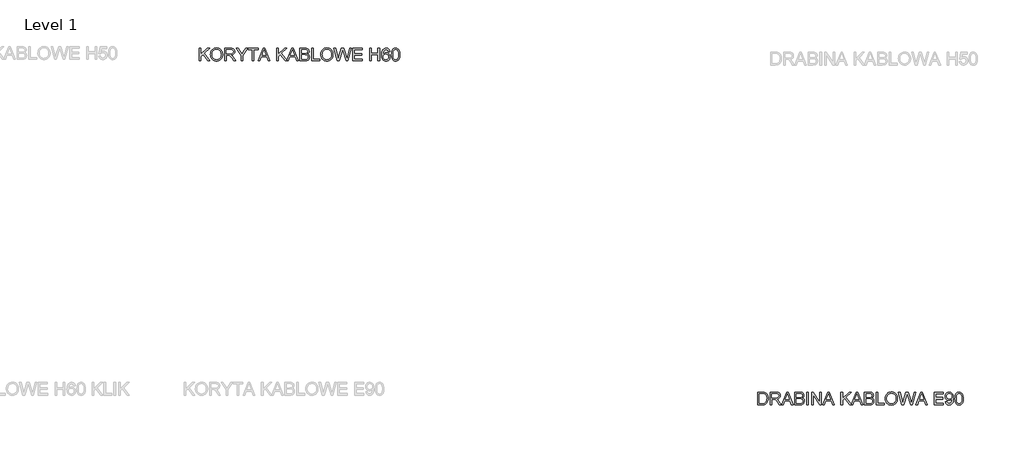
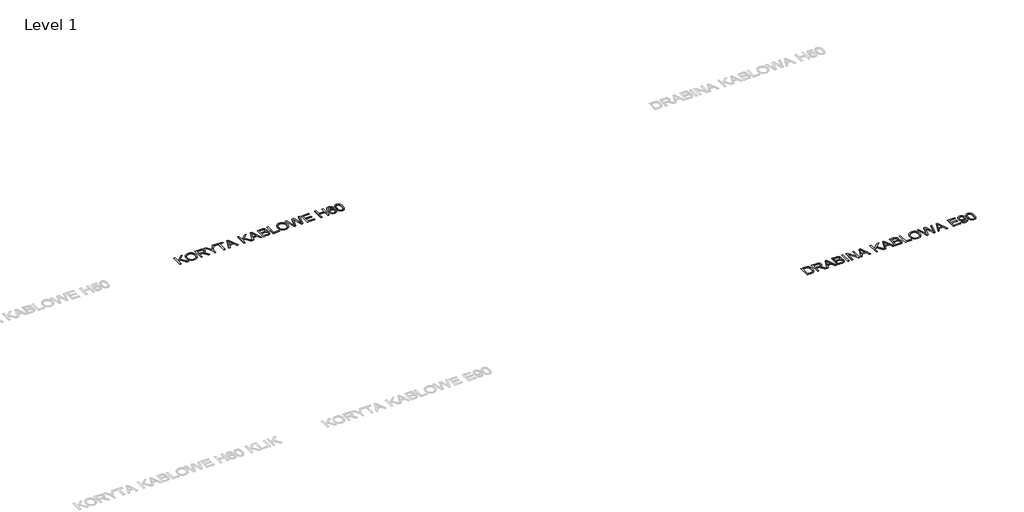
# One storey, part 8 of 9: 2 proxies.
"""IFC4 building model written with IfcOpenShell, lengths in millimetres."""

from ifc_helpers import new_model, si_unit, origin, origin_with_axes, place, context, project, spatial, polyline, outline, extrude, element, save

model = new_model("IFC4")

# Units and contexts
model_context = context("Model", 3, world=origin())
ifc_project = project(units=[si_unit("LENGTHUNIT", "METRE", prefix="MILLI")], contexts=[model_context])

# Site, building, storey
site = spatial("IfcSite", under=ifc_project)
building = spatial("IfcBuilding", under=site)
storey = spatial("IfcBuildingStorey", under=building, Name="Level 1", Elevation=0.0)

# Proxies
placement = place(None, origin())
element("IfcBuildingElementProxy", 1, Name="600mm Arial", ObjectType="600mm Arial", at=placement, inside=storey, context=model_context, shape_type="SweptSolid", body=[
    extrude(outline(polyline([(-9350.559541, 21762.9826538), (-9350.559541, 22353.7518845), (-9276.7133871, 22353.7518845), (-9276.7133871, 22064.5691922), (-8973.8287717, 22353.7518845), (-8870.559541, 22353.7518845), (-9124.8383871, 22110.8672691), (-8861.3287717, 21762.9826538), (-8951.6172333, 21762.9826538), (-9177.1941563, 22060.963423), (-9276.7133871, 21966.0595768), (-9276.7133871, 21762.9826538), (-9350.559541, 21762.9826538)])), origin_with_axes(), (0.0, 0.0, 1.0), 10.0),
    extrude(outline(polyline([(-8833.636464, 22050.5788076), (-8828.714589, 22119.8726778), (-8813.948964, 22181.2158268), (-8789.339589, 22234.6082547), (-8754.886464, 22280.0499614), (-8712.6538919, 22316.3330143), (-8664.7061756, 22342.2494807), (-8611.043315, 22357.7993605), (-8551.6653102, 22362.9826538), (-8511.9207188, 22360.5487595), (-8474.1773294, 22353.2470768), (-8438.4351419, 22341.0776057), (-8404.6941563, 22324.0403461), (-8373.9008871, 22302.6491201), (-8347.0018486, 22277.4177499), (-8323.997041, 22248.3462355), (-8304.886464, 22215.4345768), (-8289.8684352, 22179.4309711), (-8279.1412717, 22141.0836153), (-8272.7049736, 22100.3925095), (-8270.559541, 22057.3576538), (-8272.8176539, 22013.7548893), (-8279.5919929, 21972.5139038), (-8290.8825578, 21933.634697), (-8306.6893486, 21897.1172691), (-8326.6382669, 21863.9261634), (-8350.355214, 21835.025923), (-8377.84019, 21810.416548), (-8409.0931948, 21790.0980384), (-8442.8837597, 21774.1965961), (-8477.981416, 21762.838423), (-8514.3861635, 21756.0235191), (-8552.0980025, 21753.7518845), (-8592.5367044, 21756.2624013), (-8630.7758871, 21763.7939518), (-8666.8155506, 21776.346536), (-8700.6556948, 21793.9201538), (-8731.4129063, 21815.8342163), (-8758.2037717, 21841.4081345), (-8781.028291, 21870.6419086), (-8799.886464, 21903.5355384), (-8814.652089, 21938.768411), (-8825.198964, 21975.0199134), (-8831.527089, 22012.2900456), (-8833.636464, 22050.5788076)]), holes=[polyline([(-8759.7903102, 22049.8576538), (-8756.0989039, 22000.900322), (-8745.0246852, 21957.4417884), (-8726.5676539, 21919.4820528), (-8700.7278102, 21887.0211153), (-8669.317053, 21861.0235191), (-8634.1472813, 21842.4538076), (-8595.2184953, 21831.3119807), (-8552.5306948, 21827.5980384), (-8509.112726, 21831.3480384), (-8469.7242044, 21842.5980384), (-8434.3651299, 21861.3480384), (-8403.0355025, 21887.5980384), (-8377.3849616, 21920.744072), (-8359.0631467, 21960.182173), (-8348.0700578, 22005.9123413), (-8344.4056948, 22057.9345768), (-8345.9742044, 22091.7296489), (-8350.6797333, 22123.307173), (-8358.5222813, 22152.6671489), (-8369.5018486, 22179.8095768), (-8383.4967405, 22204.3783869), (-8400.3852621, 22226.0175095), (-8420.1674135, 22244.7269446), (-8442.8431948, 22260.5066922), (-8467.7094809, 22273.0322331), (-8494.0631467, 22281.979048), (-8521.9041924, 22287.3471369), (-8551.2326179, 22289.1364999), (-8592.4375458, 22285.6884831), (-8630.667714, 22275.3444326), (-8665.9231227, 22258.1043485), (-8698.2037717, 22233.9682307), (-8725.1478823, 22201.7732187), (-8744.3936756, 22160.3564518), (-8755.9411515, 22109.7179302), (-8759.7903102, 22049.8576538)])]), origin_with_axes(), (0.0, 0.0, 1.0), 10.0),
    extrude(outline(polyline([(-8169.0210794, 21762.9826538), (-8169.0210794, 22353.7518845), (-7914.4537717, 22353.7518845), (-7846.0343006, 22349.7675095), (-7796.2566563, 22337.8143845), (-7777.0469208, 22328.3131826), (-7759.8744448, 22315.7470768), (-7744.7392285, 22300.1160672), (-7731.6412717, 22281.4201538), (-7721.0718607, 22260.6644446), (-7713.5222813, 22238.854048), (-7707.4826179, 22192.0691922), (-7709.9841203, 22161.7266441), (-7717.4886275, 22133.8720768), (-7729.9961395, 22108.5054903), (-7747.5066563, 22085.6268845), (-7770.2455385, 22065.9664278), (-7798.4381467, 22050.2542884), (-7832.0844809, 22038.4904663), (-7871.184541, 22030.6749614), (-7846.8455986, 22014.7735191), (-7829.2133871, 21999.088423), (-7769.3576179, 21923.0788076), (-7670.8480025, 21762.9826538), (-7756.6653102, 21762.9826538), (-7833.5403102, 21885.4345768), (-7889.0691563, 21966.4922691), (-7909.7121852, 21990.1280864), (-7928.0835794, 22004.7855384), (-7963.2037717, 22018.8480384), (-8006.0403102, 22021.4441922), (-8095.1749256, 22021.4441922), (-8095.1749256, 21762.9826538), (-8169.0210794, 21762.9826538)]), holes=[polyline([(-8095.1749256, 22095.2903461), (-7929.886464, 22095.2903461), (-7882.4165121, 22097.9045288), (-7845.5835794, 22105.7470768), (-7817.855214, 22119.3408268), (-7797.698964, 22139.2086153), (-7785.4213198, 22163.2410672), (-7781.3287717, 22189.3288076), (-7783.2803943, 22208.2140239), (-7789.1352621, 22225.3504422), (-7798.8933751, 22240.7380624), (-7812.5547333, 22254.3768845), (-7830.4348414, 22265.5457547), (-7852.8492044, 22273.5235191), (-7879.7978222, 22278.3101778), (-7911.2806948, 22279.9057307), (-8095.1749256, 22279.9057307), (-8095.1749256, 22095.2903461)])]), origin_with_axes(), (0.0, 0.0, 1.0), 10.0),
    extrude(outline(polyline([(-7412.0980025, 21762.9826538), (-7412.0980025, 22013.2230384), (-7642.8672333, 22353.7518845), (-7555.7518486, 22353.7518845), (-7432.5787717, 22171.8768845), (-7369.5499256, 22079.1364999), (-7306.3768486, 22178.5114999), (-7194.5980025, 22353.7518845), (-7107.4826179, 22353.7518845), (-7338.2518486, 22013.2230384), (-7338.2518486, 21762.9826538), (-7412.0980025, 21762.9826538)])), origin_with_axes(), (0.0, 0.0, 1.0), 10.0),
    extrude(outline(polyline([(-6895.1749256, 21762.9826538), (-6895.1749256, 22279.9057307), (-7089.0210794, 22279.9057307), (-7089.0210794, 22353.7518845), (-6627.4826179, 22353.7518845), (-6627.4826179, 22279.9057307), (-6821.3287717, 22279.9057307), (-6821.3287717, 21762.9826538), (-6895.1749256, 21762.9826538)])), origin_with_axes(), (0.0, 0.0, 1.0), 10.0),
    extrude(outline(polyline([(-6613.2037717, 21762.9826538), (-6377.386464, 22353.7518845), (-6314.5018486, 22353.7518845), (-6078.684541, 21762.9826538), (-6156.7133871, 21762.9826538), (-6224.3576179, 21947.5980384), (-6467.6749256, 21947.5980384), (-6535.1749256, 21762.9826538), (-6613.2037717, 21762.9826538)]), holes=[polyline([(-6440.559541, 22021.4441922), (-6251.3287717, 22021.4441922), (-6304.5499256, 22166.6845768), (-6345.9441563, 22279.9057307), (-6382.7230025, 22179.3768845), (-6440.559541, 22021.4441922)])]), origin_with_axes(), (0.0, 0.0, 1.0), 10.0),
    extrude(outline(polyline([(-5769.0210794, 21762.9826538), (-5769.0210794, 22353.7518845), (-5695.1749256, 22353.7518845), (-5695.1749256, 22064.5691922), (-5392.2903102, 22353.7518845), (-5289.0210794, 22353.7518845), (-5543.2999256, 22110.8672691), (-5279.7903102, 21762.9826538), (-5370.0787717, 21762.9826538), (-5595.6556948, 22060.963423), (-5695.1749256, 21966.0595768), (-5695.1749256, 21762.9826538), (-5769.0210794, 21762.9826538)])), origin_with_axes(), (0.0, 0.0, 1.0), 10.0),
    extrude(outline(polyline([(-5293.2037717, 21762.9826538), (-5057.386464, 22353.7518845), (-4994.5018486, 22353.7518845), (-4758.684541, 21762.9826538), (-4836.7133871, 21762.9826538), (-4904.3576179, 21947.5980384), (-5147.6749256, 21947.5980384), (-5215.1749256, 21762.9826538), (-5293.2037717, 21762.9826538)]), holes=[polyline([(-5120.559541, 22021.4441922), (-4931.3287717, 22021.4441922), (-4984.5499256, 22166.6845768), (-5025.9441563, 22279.9057307), (-5062.7230025, 22179.3768845), (-5120.559541, 22021.4441922)])]), origin_with_axes(), (0.0, 0.0, 1.0), 10.0),
    extrude(outline(polyline([(-4679.7903102, 21762.9826538), (-4679.7903102, 22353.7518845), (-4454.3576179, 22353.7518845), (-4392.356416, 22349.4069326), (-4343.948964, 22336.3720768), (-4306.8455986, 22314.322798), (-4291.6743246, 22299.7960552), (-4278.7566563, 22282.9345768), (-4261.0703583, 22246.0114999), (-4255.1749256, 22207.3576538), (-4260.1328583, 22171.7867403), (-4275.0066563, 22138.3432307), (-4299.9044929, 22109.0824134), (-4334.934541, 22086.0595768), (-4312.6463799, 22076.5583749), (-4293.089589, 22064.2086153), (-4276.2641684, 22049.010298), (-4262.1701179, 22030.963423), (-4251.0327982, 22010.6178701), (-4243.0775698, 21988.5235191), (-4238.3044328, 21964.6803701), (-4236.7133871, 21939.088423), (-4241.058339, 21897.8925095), (-4254.0931948, 21859.6893845), (-4273.5463198, 21827.2014038), (-4297.1460794, 21803.150923), (-4326.0463198, 21785.7350576), (-4361.4008871, 21773.150923), (-4404.3636275, 21765.5247211), (-4456.0883871, 21762.9826538), (-4679.7903102, 21762.9826538)]), holes=[polyline([(-4605.9441563, 22113.7518845), (-4471.0883871, 22113.7518845), (-4423.9249256, 22115.338423), (-4392.3383871, 22120.0980384), (-4364.7722813, 22131.041548), (-4344.9585794, 22147.4297691), (-4333.0054544, 22169.010298), (-4329.0210794, 22195.5307307), (-4332.7350217, 22221.275923), (-4343.8768486, 22243.7038076), (-4361.9417525, 22261.2098172), (-4386.4249256, 22272.1893845), (-4423.997041, 22277.9766441), (-4481.3287717, 22279.9057307), (-4605.9441563, 22279.9057307), (-4605.9441563, 22113.7518845)]), polyline([(-4605.9441563, 21836.8288076), (-4454.5018486, 21836.8288076), (-4399.6941563, 21839.713423), (-4374.2554544, 21846.1136634), (-4353.323964, 21855.7951538), (-4336.3047333, 21869.6593364), (-4322.6028102, 21888.6076538), (-4313.5703583, 21911.7927499), (-4310.559541, 21938.3672691), (-4314.0931948, 21969.2326538), (-4324.6941563, 21995.7711153), (-4343.2097813, 22016.5223172), (-4370.4874256, 22030.025923), (-4409.1232429, 22037.4357788), (-4461.7133871, 22039.9057307), (-4605.9441563, 22039.9057307), (-4605.9441563, 21836.8288076)])]), origin_with_axes(), (0.0, 0.0, 1.0), 10.0),
    extrude(outline(polyline([(-4135.1749256, 21762.9826538), (-4135.1749256, 22353.7518845), (-4061.3287717, 22353.7518845), (-4061.3287717, 21836.8288076), (-3765.9441563, 21836.8288076), (-3765.9441563, 21762.9826538), (-4135.1749256, 21762.9826538)])), origin_with_axes(), (0.0, 0.0, 1.0), 10.0),
    extrude(outline(polyline([(-3710.559541, 22050.5788076), (-3705.637666, 22119.8726778), (-3690.872041, 22181.2158268), (-3666.262666, 22234.6082547), (-3631.809541, 22280.0499614), (-3589.5769688, 22316.3330143), (-3541.6292525, 22342.2494807), (-3487.9663919, 22357.7993605), (-3428.5883871, 22362.9826538), (-3388.8437958, 22360.5487595), (-3351.1004063, 22353.2470768), (-3315.3582188, 22341.0776057), (-3281.6172333, 22324.0403461), (-3250.823964, 22302.6491201), (-3223.9249256, 22277.4177499), (-3200.9201179, 22248.3462355), (-3181.809541, 22215.4345768), (-3166.7915121, 22179.4309711), (-3156.0643486, 22141.0836153), (-3149.6280506, 22100.3925095), (-3147.4826179, 22057.3576538), (-3149.7407309, 22013.7548893), (-3156.5150698, 21972.5139038), (-3167.8056347, 21933.634697), (-3183.6124256, 21897.1172691), (-3203.5613438, 21863.9261634), (-3227.278291, 21835.025923), (-3254.7632669, 21810.416548), (-3286.0162717, 21790.0980384), (-3319.8068366, 21774.1965961), (-3354.9044929, 21762.838423), (-3391.3092405, 21756.0235191), (-3429.0210794, 21753.7518845), (-3469.4597813, 21756.2624013), (-3507.698964, 21763.7939518), (-3543.7386275, 21776.346536), (-3577.5787717, 21793.9201538), (-3608.3359833, 21815.8342163), (-3635.1268486, 21841.4081345), (-3657.9513679, 21870.6419086), (-3676.809541, 21903.5355384), (-3691.575166, 21938.768411), (-3702.122041, 21975.0199134), (-3708.450166, 22012.2900456), (-3710.559541, 22050.5788076)]), holes=[polyline([(-3636.7133871, 22049.8576538), (-3633.0219809, 22000.900322), (-3621.9477621, 21957.4417884), (-3603.4907309, 21919.4820528), (-3577.6508871, 21887.0211153), (-3546.2401299, 21861.0235191), (-3511.0703583, 21842.4538076), (-3472.1415722, 21831.3119807), (-3429.4537717, 21827.5980384), (-3386.035803, 21831.3480384), (-3346.6472813, 21842.5980384), (-3311.2882068, 21861.3480384), (-3279.9585794, 21887.5980384), (-3254.3080385, 21920.744072), (-3235.9862236, 21960.182173), (-3224.9931347, 22005.9123413), (-3221.3287717, 22057.9345768), (-3222.8972813, 22091.7296489), (-3227.6028102, 22123.307173), (-3235.4453583, 22152.6671489), (-3246.4249256, 22179.8095768), (-3260.4198174, 22204.3783869), (-3277.308339, 22226.0175095), (-3297.0904905, 22244.7269446), (-3319.7662717, 22260.5066922), (-3344.6325578, 22273.0322331), (-3370.9862236, 22281.979048), (-3398.8272693, 22287.3471369), (-3428.1556948, 22289.1364999), (-3469.3606227, 22285.6884831), (-3507.590791, 22275.3444326), (-3542.8461996, 22258.1043485), (-3575.1268486, 22233.9682307), (-3602.0709592, 22201.7732187), (-3621.3167525, 22160.3564518), (-3632.8642285, 22109.7179302), (-3636.7133871, 22049.8576538)])]), origin_with_axes(), (0.0, 0.0, 1.0), 10.0),
    extrude(outline(polyline([(-2940.2230025, 21762.9826538), (-3101.3287717, 22353.7518845), (-3025.1749256, 22353.7518845), (-2931.7133871, 21965.4826538), (-2902.8672333, 21845.6268845), (-2872.0018486, 21951.6364999), (-2754.886464, 22353.7518845), (-2645.1268486, 22353.7518845), (-2560.0306948, 22062.2614999), (-2523.5763679, 21954.088423), (-2496.7133871, 21845.6268845), (-2468.7326179, 21962.0211153), (-2374.4056948, 22353.7518845), (-2298.2518486, 22353.7518845), (-2459.5018486, 21762.9826538), (-2538.3960794, 21762.9826538), (-2680.0306948, 22218.7518845), (-2699.7903102, 22282.3576538), (-2722.0018486, 22205.7711153), (-2851.0883871, 21762.9826538), (-2940.2230025, 21762.9826538)])), origin_with_axes(), (0.0, 0.0, 1.0), 10.0),
    extrude(outline(polyline([(-2224.4056948, 21762.9826538), (-2224.4056948, 22353.7518845), (-1799.7903102, 22353.7518845), (-1799.7903102, 22279.9057307), (-2150.559541, 22279.9057307), (-2150.559541, 22104.5211153), (-1818.2518486, 22104.5211153), (-1818.2518486, 22030.6749614), (-2150.559541, 22030.6749614), (-2150.559541, 21836.8288076), (-1790.559541, 21836.8288076), (-1790.559541, 21762.9826538), (-2224.4056948, 21762.9826538)])), origin_with_axes(), (0.0, 0.0, 1.0), 10.0),
    extrude(outline(polyline([(-1449.0210794, 21762.9826538), (-1449.0210794, 22353.7518845), (-1375.1749256, 22353.7518845), (-1375.1749256, 22113.7518845), (-1061.3287717, 22113.7518845), (-1061.3287717, 22353.7518845), (-987.4826179, 22353.7518845), (-987.4826179, 21762.9826538), (-1061.3287717, 21762.9826538), (-1061.3287717, 22039.9057307), (-1375.1749256, 22039.9057307), (-1375.1749256, 21762.9826538), (-1449.0210794, 21762.9826538)])), origin_with_axes(), (0.0, 0.0, 1.0), 10.0),
    extrude(outline(polyline([(-507.4826179, 22196.8288076), (-581.3287717, 22187.5980384), (-593.2278102, 22224.1965961), (-609.309541, 22249.1845768), (-625.18394, 22262.6250816), (-642.8071371, 22272.2254422), (-662.1791323, 22277.9856586), (-683.2999256, 22279.9057307), (-717.6268486, 22275.4345768), (-749.934541, 22262.0211153), (-777.6809352, 22233.7699134), (-800.3431948, 22194.8816922), (-809.1998655, 22170.0785071), (-815.6496852, 22139.8756826), (-821.3287717, 22063.2711153), (-791.7073775, 22097.8324134), (-756.2085794, 22122.1893845), (-716.8155506, 22136.6304903), (-675.511464, 22141.4441922), (-640.0306948, 22138.1539278), (-607.2903102, 22128.2831345), (-577.2903102, 22111.8318124), (-550.0306948, 22088.7999614), (-527.3774496, 22060.5577739), (-511.1965602, 22028.4754422), (-501.4880265, 21992.5529663), (-498.2518486, 21952.7903461), (-504.3455986, 21899.9117403), (-511.9627861, 21874.9192523), (-522.6268486, 21850.8913076), (-535.9591804, 21828.7248413), (-551.5811756, 21809.3167884), (-569.4928342, 21792.6671489), (-589.6941563, 21778.775923), (-611.7524496, 21767.8279062), (-635.2350217, 21760.0078941), (-660.1418727, 21755.3158869), (-686.4730025, 21753.7518845), (-730.4949376, 21757.8985191), (-770.2530506, 21770.338423), (-805.7473414, 21791.0715961), (-836.9778102, 21820.0980384), (-862.4390482, 21858.6437114), (-880.6256467, 21907.9345768), (-891.5376059, 21967.9706345), (-895.1749256, 22038.7518845), (-891.136464, 22118.1058509), (-879.0210794, 22185.8312114), (-858.8287717, 22241.9279663), (-845.7037717, 22265.6156165), (-830.559541, 22286.3961153), (-799.9195169, 22315.8642643), (-764.3936756, 22336.9129422), (-723.9820169, 22349.5421489), (-678.684541, 22353.7518845), (-644.6731227, 22351.1467163), (-613.8888679, 22343.3312114), (-586.3317765, 22330.3053701), (-562.0018486, 22312.0691922), (-541.5571371, 22289.2356586), (-525.6556948, 22262.4177499), (-514.2975217, 22231.6154663), (-507.4826179, 22196.8288076)]), holes=[polyline([(-821.3287717, 21953.9441922), (-817.0559352, 21921.2218364), (-804.2374256, 21889.9778461), (-784.3335794, 21863.1148653), (-758.8047333, 21843.5355384), (-727.9934352, 21831.5824134), (-692.2422333, 21827.5980384), (-666.5736635, 21829.6623413), (-643.5102621, 21835.8552499), (-623.0520289, 21846.1767643), (-605.198964, 21860.6268845), (-590.7172934, 21878.619673), (-580.3732429, 21899.5691922), (-574.1668126, 21923.4754422), (-572.0980025, 21950.338423), (-574.1397693, 21976.1512235), (-580.2650698, 21999.0703941), (-590.4739039, 22019.095935), (-604.7662717, 22036.2278461), (-622.6734232, 22049.9523052), (-643.7266083, 22059.7554903), (-667.925827, 22065.6374013), (-695.2710794, 22067.5980384), (-720.597101, 22065.6374013), (-743.9309352, 22059.7554903), (-765.2725818, 22049.9523052), (-784.622041, 22036.2278461), (-800.6812357, 22019.3212956), (-812.152089, 21999.9718364), (-819.034601, 21978.1794687), (-821.3287717, 21953.9441922)])]), origin_with_axes(), (0.0, 0.0, 1.0), 10.0),
    extrude(outline(polyline([(-433.636464, 22053.6076538), (-428.2097813, 22148.1689518), (-421.426428, 22188.2696129), (-411.9297333, 22223.5836153), (-399.7602621, 22254.3994206), (-384.9585794, 22281.0054903), (-367.5246852, 22303.4018244), (-347.4585794, 22321.588423), (-324.6926539, 22335.6599374), (-299.1593006, 22345.7110191), (-270.8585193, 22351.7416682), (-239.7903102, 22353.7518845), (-194.2855025, 22348.9922691), (-153.5403102, 22334.713423), (-119.465791, 22311.4742403), (-93.9730025, 22279.8336153), (-74.7181948, 22240.0619807), (-59.3576179, 22192.4297691), (-49.2975217, 22131.9429903), (-45.9441563, 22053.6076538), (-51.3167525, 21959.5872211), (-58.0324977, 21919.6217763), (-67.434541, 21884.3528461), (-79.5093607, 21853.5235191), (-94.2434352, 21826.8768845), (-111.6367645, 21804.4129422), (-131.6893486, 21786.1316922), (-154.4823174, 21771.9655263), (-180.0968006, 21761.8468364), (-208.5327982, 21755.7756225), (-239.7903102, 21753.7518845), (-280.4633871, 21757.2675095), (-316.5210794, 21767.8143845), (-347.9633871, 21785.3925095), (-374.7903102, 21810.0018845), (-400.5355025, 21854.4880624), (-418.9249256, 21909.9177499), (-429.9585794, 21976.290947), (-433.636464, 22053.6076538)]), holes=[polyline([(-359.7903102, 22053.7518845), (-357.6268486, 21989.5556706), (-351.136464, 21937.5920288), (-340.3191563, 21897.860959), (-325.1749256, 21870.3624614), (-306.8576179, 21851.6530263), (-286.5210794, 21838.2891441), (-264.1653102, 21830.2708148), (-239.7903102, 21827.5980384), (-215.4153102, 21830.2798292), (-193.059541, 21838.3252018), (-172.7230025, 21851.7341562), (-154.4056948, 21870.5066922), (-139.261464, 21898.0502619), (-128.4441563, 21937.7723172), (-121.9537717, 21989.6728581), (-119.7903102, 22053.7518845), (-121.8816563, 22116.2488797), (-128.1556948, 22167.2975576), (-138.6124256, 22206.8979182), (-153.2518486, 22235.0499614), (-171.262666, 22254.6743605), (-191.8335794, 22268.6917884), (-214.964589, 22277.1022451), (-240.6556948, 22279.9057307), (-264.9044929, 22277.4357788), (-286.8816563, 22270.025923), (-306.5871852, 22257.6761634), (-324.0210794, 22240.3864999), (-339.6701179, 22209.7374614), (-350.8480025, 22168.4153461), (-357.5547333, 22116.4201538), (-359.7903102, 22053.7518845)])]), origin_with_axes(), (0.0, 0.0, 1.0), 10.0),
])
element("IfcBuildingElementProxy", 2, Name="600mm Arial", ObjectType="600mm Arial", at=placement, inside=storey, context=model_context, shape_type="SweptSolid", body=[
    extrude(outline(polyline([(16562.0605697, 5777.8494395), (16562.0605697, 6368.6186702), (16765.8586467, 6368.6186702), (16826.760089, 6366.4912664), (16871.291339, 6360.1090549), (16918.3826851, 6343.7028049), (16958.118262, 6317.8494395), (16980.0142957, 6296.7196318), (16998.9716274, 6272.8494395), (17014.9902572, 6246.2388625), (17028.0701851, 6216.887901), (17038.2294399, 6185.0669875), (17045.4860505, 6151.0465549), (17051.291339, 6076.4071318), (17047.3610505, 6012.9996799), (17035.5701851, 5957.200401), (17017.6134543, 5909.6943914), (16995.1855697, 5871.1667472), (16969.368262, 5840.7520837), (16941.243262, 5817.5850164), (16908.9535986, 5800.403526), (16870.6423005, 5787.9455933), (16826.2372524, 5780.3734779), (16775.666339, 5777.8494395), (16562.0605697, 5777.8494395)]), holes=[polyline([(16635.9067236, 5851.6955933), (16766.5798005, 5851.6955933), (16820.6302813, 5854.3638625), (16861.6278774, 5862.3686702), (16892.5653774, 5875.2412664), (16916.4355697, 5892.512901), (16942.0906178, 5924.4780452), (16961.3634543, 5965.8542472), (16973.4247524, 6016.8217952), (16977.4451851, 6077.5609779), (16975.4755337, 6120.4335741), (16969.5665793, 6158.0417472), (16959.7183221, 6190.3854972), (16945.930762, 6217.4648241), (16929.3216875, 6239.8927087), (16911.008887, 6258.2821318), (16890.9923606, 6272.6330933), (16869.2721082, 6282.9455933), (16826.7961467, 6291.8157856), (16764.5605697, 6294.7725164), (16635.9067236, 6294.7725164), (16635.9067236, 5851.6955933)])]), origin_with_axes(), (0.0, 0.0, 1.0), 10.0),
    extrude(outline(polyline([(17152.8298005, 5777.8494395), (17152.8298005, 6368.6186702), (17407.3971082, 6368.6186702), (17475.8165793, 6364.6342952), (17525.5942236, 6352.6811702), (17544.8039592, 6343.1799683), (17561.9764351, 6330.6138625), (17577.1116515, 6314.9828529), (17590.2096082, 6296.2869395), (17600.7790192, 6275.5312303), (17608.3285986, 6253.7208337), (17614.368262, 6206.9359779), (17611.8667596, 6176.5934299), (17604.3622524, 6148.7388625), (17591.8547404, 6123.372276), (17574.3442236, 6100.4936702), (17551.6053414, 6080.8332135), (17523.4127332, 6065.1210741), (17489.7663991, 6053.357252), (17450.666339, 6045.5417472), (17475.0052813, 6029.6403049), (17492.6374928, 6013.9552087), (17552.493262, 5937.9455933), (17651.0028774, 5777.8494395), (17565.1855697, 5777.8494395), (17488.3105697, 5900.3013625), (17432.7817236, 5981.3590549), (17412.1386947, 6004.9948722), (17393.7673005, 6019.6523241), (17358.6471082, 6033.7148241), (17315.8105697, 6036.3109779), (17226.6759543, 6036.3109779), (17226.6759543, 5777.8494395), (17152.8298005, 5777.8494395)]), holes=[polyline([(17226.6759543, 6110.1571318), (17391.9644159, 6110.1571318), (17439.4343678, 6112.7713145), (17476.2673005, 6120.6138625), (17503.9956659, 6134.2076125), (17524.1519159, 6154.075401), (17536.4295601, 6178.1078529), (17540.5221082, 6204.1955933), (17538.5704856, 6223.0808097), (17532.7156178, 6240.2172279), (17522.9575048, 6255.6048481), (17509.2961467, 6269.2436702), (17491.4160385, 6280.4125404), (17469.0016755, 6288.3903049), (17442.0530577, 6293.1769635), (17410.5701851, 6294.7725164), (17226.6759543, 6294.7725164), (17226.6759543, 6110.1571318)])]), origin_with_axes(), (0.0, 0.0, 1.0), 10.0),
    extrude(outline(polyline([(17674.8009543, 5777.8494395), (17910.618262, 6368.6186702), (17973.5028774, 6368.6186702), (18209.3201851, 5777.8494395), (18131.291339, 5777.8494395), (18063.6471082, 5962.4648241), (17820.3298005, 5962.4648241), (17752.8298005, 5777.8494395), (17674.8009543, 5777.8494395)]), holes=[polyline([(17847.4451851, 6036.3109779), (18036.6759543, 6036.3109779), (17983.4548005, 6181.5513625), (17942.0605697, 6294.7725164), (17905.2817236, 6194.2436702), (17847.4451851, 6036.3109779)])]), origin_with_axes(), (0.0, 0.0, 1.0), 10.0),
    extrude(outline(polyline([(18288.2144159, 5777.8494395), (18288.2144159, 6368.6186702), (18513.6471082, 6368.6186702), (18575.6483101, 6364.2737183), (18624.055762, 6351.2388625), (18661.1591274, 6329.1895837), (18676.3304015, 6314.6628409), (18689.2480697, 6297.8013625), (18706.9343678, 6260.8782856), (18712.8298005, 6222.2244395), (18707.8718678, 6186.653526), (18692.9980697, 6153.2100164), (18668.1002332, 6123.9491991), (18633.0701851, 6100.9263625), (18655.3583462, 6091.4251606), (18674.915137, 6079.075401), (18691.7405577, 6063.8770837), (18705.8346082, 6045.8302087), (18716.9719279, 6025.4846558), (18724.9271563, 6003.3903049), (18729.7002933, 5979.5471558), (18731.291339, 5953.9552087), (18726.946387, 5912.7592952), (18713.9115313, 5874.5561702), (18694.4584063, 5842.0681895), (18670.8586467, 5818.0177087), (18641.9584063, 5800.6018433), (18606.603839, 5788.0177087), (18563.6410986, 5780.3915068), (18511.916339, 5777.8494395), (18288.2144159, 5777.8494395)]), holes=[polyline([(18362.0605697, 6128.6186702), (18496.916339, 6128.6186702), (18544.0798005, 6130.2052087), (18575.666339, 6134.9648241), (18603.2324447, 6145.9083337), (18623.0461467, 6162.2965549), (18634.9992717, 6183.8770837), (18638.9836467, 6210.3975164), (18635.2697043, 6236.1427087), (18624.1278774, 6258.5705933), (18606.0629736, 6276.0766029), (18581.5798005, 6287.0561702), (18544.0076851, 6292.8434299), (18486.6759543, 6294.7725164), (18362.0605697, 6294.7725164), (18362.0605697, 6128.6186702)]), polyline([(18362.0605697, 5851.6955933), (18513.5028774, 5851.6955933), (18568.3105697, 5854.5802087), (18593.7492717, 5860.9804491), (18614.680762, 5870.6619395), (18631.6999928, 5884.5261222), (18645.4019159, 5903.4744395), (18654.4343678, 5926.6595356), (18657.4451851, 5953.2340549), (18653.9115313, 5984.0994395), (18643.3105697, 6010.637901), (18624.7949447, 6031.3891029), (18597.5173005, 6044.8927087), (18558.8814832, 6052.3025645), (18506.291339, 6054.7725164), (18362.0605697, 6054.7725164), (18362.0605697, 5851.6955933)])]), origin_with_axes(), (0.0, 0.0, 1.0), 10.0),
    extrude(outline(polyline([(18842.0605697, 5777.8494395), (18842.0605697, 6368.6186702), (18915.9067236, 6368.6186702), (18915.9067236, 5777.8494395), (18842.0605697, 5777.8494395)])), origin_with_axes(), (0.0, 0.0, 1.0), 10.0),
    extrude(outline(polyline([(19063.5990313, 5777.8494395), (19063.5990313, 6368.6186702), (19142.6374928, 6368.6186702), (19451.291339, 5900.5898241), (19451.291339, 6368.6186702), (19525.1374928, 6368.6186702), (19525.1374928, 5777.8494395), (19446.0990313, 5777.8494395), (19137.4451851, 6246.0225164), (19137.4451851, 5777.8494395), (19063.5990313, 5777.8494395)])), origin_with_axes(), (0.0, 0.0, 1.0), 10.0),
    extrude(outline(polyline([(19585.5701851, 5777.8494395), (19821.3874928, 6368.6186702), (19884.2721082, 6368.6186702), (20120.0894159, 5777.8494395), (20042.0605697, 5777.8494395), (19974.416339, 5962.4648241), (19731.0990313, 5962.4648241), (19663.5990313, 5777.8494395), (19585.5701851, 5777.8494395)]), holes=[polyline([(19758.2144159, 6036.3109779), (19947.4451851, 6036.3109779), (19894.2240313, 6181.5513625), (19852.8298005, 6294.7725164), (19816.0509543, 6194.2436702), (19758.2144159, 6036.3109779)])]), origin_with_axes(), (0.0, 0.0, 1.0), 10.0),
    extrude(outline(polyline([(20429.7528774, 5777.8494395), (20429.7528774, 6368.6186702), (20503.5990313, 6368.6186702), (20503.5990313, 6079.4359779), (20806.4836467, 6368.6186702), (20909.7528774, 6368.6186702), (20655.4740313, 6125.7340549), (20918.9836467, 5777.8494395), (20828.6951851, 5777.8494395), (20603.118262, 6075.8302087), (20503.5990313, 5980.9263625), (20503.5990313, 5777.8494395), (20429.7528774, 5777.8494395)])), origin_with_axes(), (0.0, 0.0, 1.0), 10.0),
    extrude(outline(polyline([(20905.5701851, 5777.8494395), (21141.3874928, 6368.6186702), (21204.2721082, 6368.6186702), (21440.0894159, 5777.8494395), (21362.0605697, 5777.8494395), (21294.416339, 5962.4648241), (21051.0990313, 5962.4648241), (20983.5990313, 5777.8494395), (20905.5701851, 5777.8494395)]), holes=[polyline([(21078.2144159, 6036.3109779), (21267.4451851, 6036.3109779), (21214.2240313, 6181.5513625), (21172.8298005, 6294.7725164), (21136.0509543, 6194.2436702), (21078.2144159, 6036.3109779)])]), origin_with_axes(), (0.0, 0.0, 1.0), 10.0),
    extrude(outline(polyline([(21518.9836467, 5777.8494395), (21518.9836467, 6368.6186702), (21744.416339, 6368.6186702), (21806.4175409, 6364.2737183), (21854.8249928, 6351.2388625), (21891.9283582, 6329.1895837), (21907.0996322, 6314.6628409), (21920.0173005, 6297.8013625), (21937.7035986, 6260.8782856), (21943.5990313, 6222.2244395), (21938.6410986, 6186.653526), (21923.7673005, 6153.2100164), (21898.869464, 6123.9491991), (21863.8394159, 6100.9263625), (21886.1275769, 6091.4251606), (21905.6843678, 6079.075401), (21922.5097885, 6063.8770837), (21936.603839, 6045.8302087), (21947.7411587, 6025.4846558), (21955.696387, 6003.3903049), (21960.4695241, 5979.5471558), (21962.0605697, 5953.9552087), (21957.7156178, 5912.7592952), (21944.680762, 5874.5561702), (21925.227637, 5842.0681895), (21901.6278774, 5818.0177087), (21872.727637, 5800.6018433), (21837.3730697, 5788.0177087), (21794.4103293, 5780.3915068), (21742.6855697, 5777.8494395), (21518.9836467, 5777.8494395)]), holes=[polyline([(21592.8298005, 6128.6186702), (21727.6855697, 6128.6186702), (21774.8490313, 6130.2052087), (21806.4355697, 6134.9648241), (21834.0016755, 6145.9083337), (21853.8153774, 6162.2965549), (21865.7685024, 6183.8770837), (21869.7528774, 6210.3975164), (21866.0389351, 6236.1427087), (21854.8971082, 6258.5705933), (21836.8322043, 6276.0766029), (21812.3490313, 6287.0561702), (21774.7769159, 6292.8434299), (21717.4451851, 6294.7725164), (21592.8298005, 6294.7725164), (21592.8298005, 6128.6186702)]), polyline([(21592.8298005, 5851.6955933), (21744.2721082, 5851.6955933), (21799.0798005, 5854.5802087), (21824.5185024, 5860.9804491), (21845.4499928, 5870.6619395), (21862.4692236, 5884.5261222), (21876.1711467, 5903.4744395), (21885.2035986, 5926.6595356), (21888.2144159, 5953.2340549), (21884.680762, 5984.0994395), (21874.0798005, 6010.637901), (21855.5641755, 6031.3891029), (21828.2865313, 6044.8927087), (21789.650714, 6052.3025645), (21737.0605697, 6054.7725164), (21592.8298005, 6054.7725164), (21592.8298005, 5851.6955933)])]), origin_with_axes(), (0.0, 0.0, 1.0), 10.0),
    extrude(outline(polyline([(22063.5990313, 5777.8494395), (22063.5990313, 6368.6186702), (22137.4451851, 6368.6186702), (22137.4451851, 5851.6955933), (22432.8298005, 5851.6955933), (22432.8298005, 5777.8494395), (22063.5990313, 5777.8494395)])), origin_with_axes(), (0.0, 0.0, 1.0), 10.0),
    extrude(outline(polyline([(22488.2144159, 6065.4455933), (22493.1362909, 6134.7394635), (22507.9019159, 6196.0826125), (22532.5112909, 6249.4750404), (22566.9644159, 6294.9167472), (22609.196988, 6331.1998), (22657.1447043, 6357.1162664), (22710.8075649, 6372.6661462), (22770.1855697, 6377.8494395), (22809.9301611, 6375.4155452), (22847.6735505, 6368.1138625), (22883.415738, 6355.9443914), (22917.1567236, 6338.9071318), (22947.9499928, 6317.5159058), (22974.8490313, 6292.2845356), (22997.853839, 6263.2130212), (23016.9644159, 6230.3013625), (23031.9824447, 6194.2977568), (23042.7096082, 6155.950401), (23049.1459063, 6115.2592952), (23051.291339, 6072.2244395), (23049.033226, 6028.621675), (23042.258887, 5987.3806895), (23030.9683221, 5948.5014827), (23015.1615313, 5911.9840549), (22995.212613, 5878.7929491), (22971.4956659, 5849.8927087), (22944.0106899, 5825.2833337), (22912.7576851, 5804.9648241), (22878.9671202, 5789.0633818), (22843.869464, 5777.7052087), (22807.4647164, 5770.8903049), (22769.7528774, 5768.6186702), (22729.3141755, 5771.1291871), (22691.0749928, 5778.6607375), (22655.0353293, 5791.2133217), (22621.1951851, 5808.7869395), (22590.4379736, 5830.701002), (22563.6471082, 5856.2749202), (22540.822589, 5885.5086943), (22521.9644159, 5918.4023241), (22507.1987909, 5953.6351967), (22496.6519159, 5989.8866991), (22490.3237909, 6027.1568313), (22488.2144159, 6065.4455933)]), holes=[polyline([(22562.0605697, 6064.7244395), (22565.751976, 6015.7671077), (22576.8261947, 5972.3085741), (22595.283226, 5934.3488385), (22621.1230697, 5901.887901), (22652.5338269, 5875.8903049), (22687.7035986, 5857.3205933), (22726.6323846, 5846.1787664), (22769.3201851, 5842.4648241), (22812.7381539, 5846.2148241), (22852.1266755, 5857.4648241), (22887.48575, 5876.2148241), (22918.8153774, 5902.4648241), (22944.4659183, 5935.6108577), (22962.7877332, 5975.0489587), (22973.7808221, 6020.779127), (22977.4451851, 6072.8013625), (22975.8766755, 6106.5964347), (22971.1711467, 6138.1739587), (22963.3285986, 6167.5339347), (22952.3490313, 6194.6763625), (22938.3541394, 6219.2451726), (22921.4656178, 6240.8842952), (22901.6834664, 6259.5937303), (22879.0076851, 6275.3734779), (22854.1413991, 6287.8990188), (22827.7877332, 6296.8458337), (22799.9466875, 6302.2139226), (22770.618262, 6304.0032856), (22729.4133342, 6300.5552688), (22691.1831659, 6290.2112183), (22655.9277572, 6272.9711342), (22623.6471082, 6248.8350164), (22596.7029976, 6216.6400044), (22577.4572043, 6175.2232375), (22565.9097284, 6124.5847159), (22562.0605697, 6064.7244395)])]), origin_with_axes(), (0.0, 0.0, 1.0), 10.0),
    extrude(outline(polyline([(23258.5509543, 5777.8494395), (23097.4451851, 6368.6186702), (23173.5990313, 6368.6186702), (23267.0605697, 5980.3494395), (23295.9067236, 5860.4936702), (23326.7721082, 5966.5032856), (23443.8874928, 6368.6186702), (23553.6471082, 6368.6186702), (23638.743262, 6077.1282856), (23675.197589, 5968.9552087), (23702.0605697, 5860.4936702), (23730.041339, 5976.887901), (23824.368262, 6368.6186702), (23900.5221082, 6368.6186702), (23739.2721082, 5777.8494395), (23660.3778774, 5777.8494395), (23518.743262, 6233.6186702), (23498.9836467, 6297.2244395), (23476.7721082, 6220.637901), (23347.6855697, 5777.8494395), (23258.5509543, 5777.8494395)])), origin_with_axes(), (0.0, 0.0, 1.0), 10.0),
    extrude(outline(polyline([(23905.5701851, 5777.8494395), (24141.3874928, 6368.6186702), (24204.2721082, 6368.6186702), (24440.0894159, 5777.8494395), (24362.0605697, 5777.8494395), (24294.416339, 5962.4648241), (24051.0990313, 5962.4648241), (23983.5990313, 5777.8494395), (23905.5701851, 5777.8494395)]), holes=[polyline([(24078.2144159, 6036.3109779), (24267.4451851, 6036.3109779), (24214.2240313, 6181.5513625), (24172.8298005, 6294.7725164), (24136.0509543, 6194.2436702), (24078.2144159, 6036.3109779)])]), origin_with_axes(), (0.0, 0.0, 1.0), 10.0),
    extrude(outline(polyline([(24749.7528774, 5777.8494395), (24749.7528774, 6368.6186702), (25174.368262, 6368.6186702), (25174.368262, 6294.7725164), (24823.5990313, 6294.7725164), (24823.5990313, 6119.387901), (25155.9067236, 6119.387901), (25155.9067236, 6045.5417472), (24823.5990313, 6045.5417472), (24823.5990313, 5851.6955933), (25183.5990313, 5851.6955933), (25183.5990313, 5777.8494395), (24749.7528774, 5777.8494395)])), origin_with_axes(), (0.0, 0.0, 1.0), 10.0),
    extrude(outline(polyline([(25275.9067236, 5925.5417472), (25349.7528774, 5934.7725164), (25362.3730697, 5892.8554491), (25371.6579255, 5876.9134419), (25382.9259543, 5864.3157856), (25396.0509543, 5854.75599), (25410.9067236, 5847.9275645), (25445.8105697, 5842.4648241), (25477.1266755, 5845.9804491), (25505.5942236, 5856.5273241), (25529.2480697, 5872.9516029), (25546.1230697, 5894.0994395), (25558.9055217, 5921.8999202), (25570.2817236, 5958.2821318), (25578.2865313, 6000.0369395), (25580.9548005, 6043.9552087), (25580.5221082, 6058.3782856), (25554.9391755, 6027.1523241), (25521.4596082, 6002.4167472), (25482.4992717, 5986.2989587), (25440.4740313, 5980.9263625), (25405.3944039, 5984.2076125), (25373.1362909, 5994.0513625), (25343.6996923, 6010.4576125), (25317.0846082, 6033.4263625), (25295.0308221, 6061.7586943), (25279.2781178, 6094.2556895), (25269.8264952, 6130.9173481), (25266.6759543, 6171.7436702), (25269.9797404, 6213.9311702), (25279.8910986, 6251.7917472), (25296.4100289, 6285.325401), (25319.5365313, 6314.5321318), (25347.6389952, 6338.1949924), (25379.0858101, 6355.0970356), (25413.876976, 6365.2382616), (25452.0124928, 6368.6186702), (25480.1690433, 6366.6895837), (25507.0906178, 6360.9023241), (25532.7772164, 6351.2568914), (25557.228839, 6337.7532856), (25579.6296803, 6320.6799683), (25599.1639351, 6300.325401), (25615.8316034, 6276.6895837), (25629.6326851, 6249.7725164), (25640.4545, 6218.0237183), (25648.1843678, 6179.8927087), (25652.8222885, 6135.3794875), (25654.368262, 6084.4840549), (25652.8267957, 6031.0330332), (25648.2023967, 5983.3241991), (25640.4950649, 5941.3575525), (25629.7048005, 5905.1330933), (25615.8721683, 5873.7674082), (25599.0377332, 5846.3770837), (25579.2014952, 5822.9621198), (25556.3634543, 5803.5225164), (25530.9833462, 5788.2520837), (25503.5209063, 5777.3446318), (25473.9761346, 5770.8001606), (25442.3490313, 5768.6186702), (25409.1849688, 5771.192288), (25379.212012, 5778.9131414), (25352.4301611, 5791.7812303), (25328.8394159, 5809.7965549), (25309.0347284, 5832.4723361), (25293.6110505, 5859.3217952), (25282.5683822, 5890.3449323), (25275.9067236, 5925.5417472)]), holes=[polyline([(25580.5221082, 6173.4744395), (25578.5299207, 6199.9407856), (25572.5533582, 6223.5225164), (25562.5924207, 6244.2196318), (25548.6471082, 6262.0321318), (25531.4025168, 6276.35605), (25511.5437428, 6286.5874202), (25489.0707861, 6292.7262424), (25463.9836467, 6294.7725164), (25438.0942236, 6292.56849), (25414.6567236, 6285.9564106), (25393.6711467, 6274.9362784), (25375.1374928, 6259.5080933), (25359.993262, 6240.5732976), (25349.1759543, 6219.0333337), (25342.6855697, 6194.8882015), (25340.5221082, 6168.137901), (25342.5683822, 6144.146014), (25348.7072043, 6122.5068914), (25358.9385745, 6103.2205332), (25373.2624928, 6086.2869395), (25391.0840072, 6072.4993794), (25411.8081659, 6062.6511222), (25435.4349688, 6056.7421678), (25461.9644159, 6054.7725164), (25486.7045, 6056.7421678), (25509.1459063, 6062.6511222), (25529.2886346, 6072.4993794), (25547.1326851, 6086.2869395), (25561.7405577, 6103.5540669), (25572.1747524, 6123.841026), (25578.4352692, 6147.1478169), (25580.5221082, 6173.4744395)])]), origin_with_axes(), (0.0, 0.0, 1.0), 10.0),
    extrude(outline(polyline([(25718.9836467, 6068.4744395), (25724.4103293, 6163.0357375), (25731.1936827, 6203.1363986), (25740.6903774, 6238.450401), (25752.8598486, 6269.2662063), (25767.6615313, 6295.872276), (25785.0954255, 6318.2686101), (25805.1615313, 6336.4552087), (25827.9274567, 6350.5267231), (25853.4608101, 6360.5778049), (25881.7615914, 6366.6084539), (25912.8298005, 6368.6186702), (25958.3346082, 6363.8590549), (25999.0798005, 6349.5802087), (26033.1543197, 6326.341026), (26058.6471082, 6294.700401), (26077.9019159, 6254.9287664), (26093.2624928, 6207.2965549), (26103.322589, 6146.809776), (26106.6759543, 6068.4744395), (26101.3033582, 5974.4540068), (26094.587613, 5934.4885621), (26085.1855697, 5899.2196318), (26073.11075, 5868.3903049), (26058.3766755, 5841.7436702), (26040.9833462, 5819.2797279), (26020.930762, 5800.9984779), (25998.1377933, 5786.8323121), (25972.5233101, 5776.7136222), (25944.0873125, 5770.6424082), (25912.8298005, 5768.6186702), (25872.1567236, 5772.1342952), (25836.0990313, 5782.6811702), (25804.6567236, 5800.2592952), (25777.8298005, 5824.8686702), (25752.0846082, 5869.3548481), (25733.6951851, 5924.7845356), (25722.6615313, 5991.1577327), (25718.9836467, 6068.4744395)]), holes=[polyline([(25792.8298005, 6068.6186702), (25794.993262, 6004.4224563), (25801.4836467, 5952.4588145), (25812.3009543, 5912.7277448), (25827.4451851, 5885.2292472), (25845.7624928, 5866.5198121), (25866.0990313, 5853.1559299), (25888.4548005, 5845.1376005), (25912.8298005, 5842.4648241), (25937.2048005, 5845.146615), (25959.5605697, 5853.1919875), (25979.8971082, 5866.6009419), (25998.2144159, 5885.3734779), (26013.3586467, 5912.9170476), (26024.1759543, 5952.6391029), (26030.666339, 6004.5396438), (26032.8298005, 6068.6186702), (26030.7384543, 6131.1156654), (26024.4644159, 6182.1643433), (26014.0076851, 6221.7647039), (25999.368262, 6249.9167472), (25981.3574447, 6269.5411462), (25960.7865313, 6283.5585741), (25937.6555217, 6291.9690308), (25911.9644159, 6294.7725164), (25887.7156178, 6292.3025645), (25865.7384543, 6284.8927087), (25846.0329255, 6272.5429491), (25828.5990313, 6255.2532856), (25812.9499928, 6224.6042472), (25801.7721082, 6183.2821318), (25795.0653774, 6131.2869395), (25792.8298005, 6068.6186702)])]), origin_with_axes(), (0.0, 0.0, 1.0), 10.0),
])

save(model, "model.ifc")
